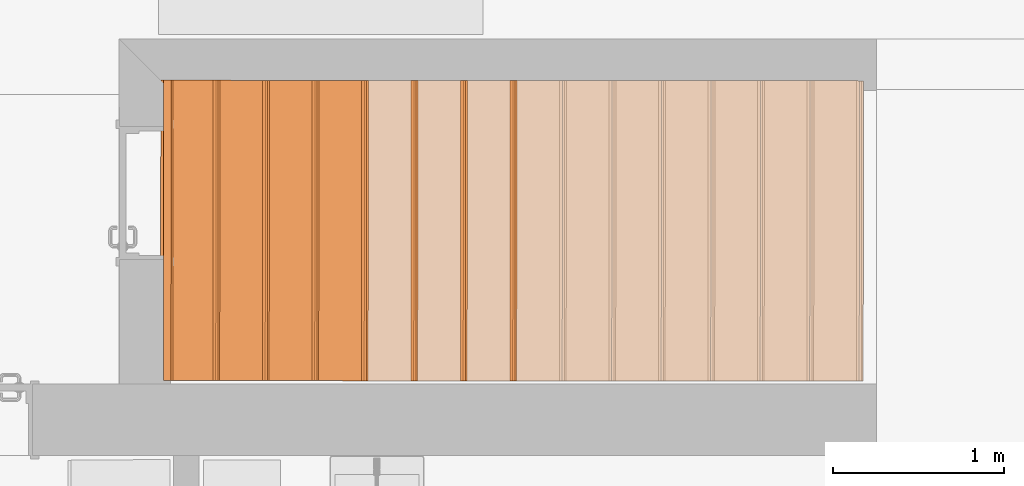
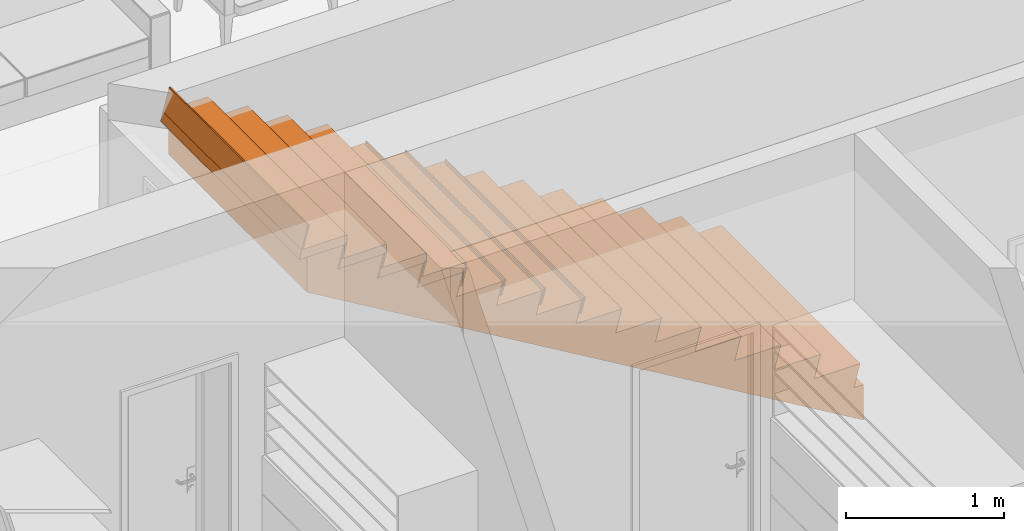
# One storey, part 192 of 194: 13 proxies, 1 element without a shape of its own.
"""IFC2X3 building model written with IfcOpenShell, lengths in millimetres."""

from ifc_helpers import new_model, entity, si_unit, converted_unit, derived_unit, money_unit, direction, frame, origin_with_axes, place, context, subcontext, project, spatial, faceted_brep, material, type_object, element, aggregate, save


model = new_model("IFC2X3")

# Units and contexts
model_context = context("Model", 3, precision=1e-05, world=origin_with_axes(), true_north=direction((0.0, 1.0)))
body_context = subcontext(model_context, "Body", "Model", "MODEL_VIEW")
ifc_project = project(units=[si_unit("LENGTHUNIT", "METRE", prefix="MILLI"), si_unit("AREAUNIT", "SQUARE_METRE"), si_unit("VOLUMEUNIT", "CUBIC_METRE"), converted_unit("PLANEANGLEUNIT", "DEGREE", entity("IfcPlaneAngleMeasure", 0.0174532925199), si_unit("PLANEANGLEUNIT", "RADIAN"), dimensions=[0, 0, 0, 0, 0, 0, 0]), si_unit("SOLIDANGLEUNIT", "STERADIAN"), money_unit("EUR"), converted_unit("TIMEUNIT", "Year", entity("IfcTimeMeasure", 31556926.0), si_unit("TIMEUNIT", "SECOND"), dimensions=[0, 0, 1, 0, 0, 0, 0]), si_unit("MASSUNIT", "GRAM", prefix="KILO"), si_unit("THERMODYNAMICTEMPERATUREUNIT", "DEGREE_CELSIUS"), si_unit("LUMINOUSINTENSITYUNIT", "LUMEN"), si_unit("ENERGYUNIT", "JOULE", prefix="MEGA"), derived_unit("THERMALCONDUCTANCEUNIT", [(si_unit("POWERUNIT", "WATT"), 1), (si_unit("LENGTHUNIT", "METRE"), -1), (si_unit("THERMODYNAMICTEMPERATUREUNIT", "KELVIN"), -1)]), derived_unit("SPECIFICHEATCAPACITYUNIT", [(si_unit("ENERGYUNIT", "JOULE"), 1), (si_unit("MASSUNIT", "GRAM", prefix="KILO"), -1), (si_unit("THERMODYNAMICTEMPERATUREUNIT", "KELVIN"), -1)]), derived_unit("MASSDENSITYUNIT", [(si_unit("MASSUNIT", "GRAM", prefix="KILO"), 1), (si_unit("VOLUMEUNIT", "CUBIC_METRE"), -1)])], contexts=[model_context])

# Site, building, storey
site_placement = place(None, origin_with_axes())
site = spatial("IfcSite", under=ifc_project, at=site_placement, Name="Site", CompositionType="ELEMENT")
building_placement = place(site_placement, origin_with_axes())
building = spatial("IfcBuilding", under=site, at=building_placement, Name="Building", CompositionType="ELEMENT")
storey_placement = place(building_placement, frame((0.0, 0.0, 3000.0), z_axis=(0.0, 0.0, 1.0), x_axis=(1.0, 0.0, 0.0)))
storey = spatial("IfcBuildingStorey", under=building, at=storey_placement, Name="2 KORRUS", CompositionType="ELEMENT", Elevation=3000.0)

# Stair, proxies
stair_placement = place(storey_placement, frame((86050.0204876, 42780.0240656, 0.0), z_axis=(0.0, 0.0, 1.0), x_axis=(-1.0, 0.0, 0.0)))
stair = element("IfcStair", 1, at=stair_placement, inside=storey, Name="STAIR - 001", ShapeType="NOTDEFINED")
ifc_material = material(Name="Betoon - Ol.Olev konstruktsioon")
building_element_proxy_type_1 = type_object("IfcBuildingElementProxyType", Name="BETOON TREPP", PredefinedType="NOTDEFINED")
proxy_1_placement = place(stair_placement, origin_with_axes())
proxy_1 = element("IfcBuildingElementProxy", 2, at=proxy_1_placement, type_object=building_element_proxy_type_1, material=ifc_material, Name="Betoon - Ol.Olev konstruktsioon;  Objekti nimi:", context=body_context, shape_type="Brep", body=[
    faceted_brep([(3964.73530173, 1756.83951981, 2004.34764346), (3916.40198375, 1756.87805543, 1975.71431013), (3868.06866578, 1756.91659105, 1947.08097679), (3819.73534781, 1756.95512667, 1918.44764346), (3771.40202984, 1756.99366229, 1889.81431013), (3723.06871187, 1757.03219791, 1861.18097679), (3674.7353939, 1757.07073353, 1832.54764346), (3626.40207593, 1757.10926915, 1803.91431013), (3578.06875795, 1757.14780477, 1775.28097679), (3529.73543998, 1757.18634038, 1746.64764346), (3481.40212201, 1757.224876, 1718.01431013), (3433.06880404, 1757.26341162, 1689.38097679), (3384.73548607, 1757.30194724, 1660.74764346), (3336.4021681, 1757.34048286, 1632.11431013), (3288.06885013, 1757.37901848, 1603.48097679), (3239.73553216, 1757.4175541, 1574.84764346), (3191.40221418, 1757.45608972, 1546.21431013), (3143.06889621, 1757.49462534, 1517.58097679), (3094.73557824, 1757.53316096, 1488.94764346), (3046.40226027, 1757.57169658, 1460.31431013), (2998.0689423, 1757.6102322, 1431.68097679), (2949.73562433, 1757.64876782, 1403.04764346), (2901.40230636, 1757.68730344, 1374.41431013), (2853.06898838, 1757.72583906, 1345.78097679), (2804.73567041, 1757.76437468, 1317.14764346), (2756.40235244, 1757.8029103, 1288.51431013), (2708.06903447, 1757.84144592, 1259.88097679), (2659.7357165, 1757.87998154, 1231.24764346), (2611.40239853, 1757.91851716, 1202.61431013), (2563.06908056, 1757.95705278, 1173.98097679), (2514.73576259, 1757.99558839, 1145.34764346), (2466.40244461, 1758.03412401, 1116.71431013), (2418.06912664, 1758.07265963, 1088.08097679), (2369.73580867, 1758.11119525, 1059.44764346), (2321.4024907, 1758.14973087, 1030.81431013), (2273.06917273, 1758.18826649, 1002.18097679), (2224.73585476, 1758.22680211, 973.547643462), (2176.40253679, 1758.26533773, 944.914310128), (2128.06921882, 1758.30387335, 916.280976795), (2079.73590084, 1758.34240897, 887.647643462), (2031.40258287, 1758.38094459, 859.014310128), (1983.0692649, 1758.41948021, 830.380976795), (1934.73594693, 1758.45801583, 801.747643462), (1886.40262896, 1758.49655145, 773.114310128), (1838.06931099, 1758.53508707, 744.480976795), (1789.73599302, 1758.57362269, 715.847643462), (1741.40267504, 1758.61215831, 687.214310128), (1693.06935707, 1758.65069393, 658.580976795), (1644.7360391, 1758.68922955, 629.947643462), (1596.40272113, 1758.72776517, 601.314310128), (1548.06940316, 1758.76630079, 572.680976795), (1499.73608519, 1758.80483641, 544.047643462), (1451.40276722, 1758.84337202, 515.414310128), (1403.06944925, 1758.88190764, 486.780976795), (1354.73613127, 1758.92044326, 458.147643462), (1306.4028133, 1758.95897888, 429.514310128), (1258.06949533, 1758.9975145, 400.880976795), (1209.73617736, 1759.03605012, 372.247643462), (1161.40285939, 1759.07458574, 343.614310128), (1113.06954142, 1759.11312136, 314.980976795), (1064.73622345, 1759.15165698, 286.347643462), (1016.40290547, 1759.1901926, 257.714310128), (968.069587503, 1759.22872822, 229.080976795), (919.736269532, 1759.26726384, 200.447643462), (871.402951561, 1759.30579946, 171.814310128), (823.069633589, 1759.34433508, 143.180976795), (774.736315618, 1759.3828707, 114.547643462), (726.402997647, 1759.42140632, 85.9143101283), (678.069679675, 1759.45994194, 57.280976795), (629.736361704, 1759.49847756, 28.6476434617), (581.403043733, 1759.53701318, 0.0143101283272), (533.069725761, 1759.5755488, -28.619023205), (484.73640779, 1759.61408442, -57.2523565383), (436.403089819, 1759.65262004, -85.8856898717), (388.069771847, 1759.69115565, -114.519023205), (339.736453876, 1759.72969127, -143.152356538), (291.403135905, 1759.76822689, -171.785689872), (243.069817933, 1759.80676251, -200.419023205), (194.736499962, 1759.84529813, -229.052356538), (146.403181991, 1759.88383375, -257.685689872), (98.0698640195, 1759.92236937, -286.319023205), (49.7365460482, 1759.96090499, -314.952356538), (1.40322807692, 1759.99944061, -343.585689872), (1.40322807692, 1759.99944061, -70.0), (70.8218928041, 1759.94409237, -70.0), (24.7882361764, 1759.98079549, 101.8), (360.821800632, 1759.71287865, 101.8), (314.788144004, 1759.74958178, 273.6), (650.82170846, 1759.48166493, 273.6), (604.788051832, 1759.51836806, 445.4), (940.821616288, 1759.25045121, 445.4), (894.78795966, 1759.28715434, 617.2), (1230.82152412, 1759.0192375, 617.2), (1184.78786749, 1759.05594062, 789.0), (1520.82143194, 1758.78802378, 789.0), (1474.78777532, 1758.82472691, 960.8), (1810.82133977, 1758.55681006, 960.8), (1764.78768314, 1758.59351319, 1132.6), (2100.8212476, 1758.32559635, 1132.6), (2054.78759097, 1758.36229947, 1304.4), (2390.82115543, 1758.09438263, 1304.4), (2344.7874988, 1758.13108576, 1476.2), (2680.82106326, 1757.86316891, 1476.2), (2634.78740663, 1757.89987204, 1648.0), (2970.82097108, 1757.63195519, 1648.0), (2924.78731446, 1757.66865832, 1819.8), (3260.82087891, 1757.40074148, 1819.8), (3214.78722228, 1757.4374446, 1991.6), (3550.82078674, 1757.16952776, 1991.6), (3504.78713011, 1757.20623089, 2163.4), (3840.82069457, 1756.93831555, 2163.4), (3794.78703794, 1756.97501768, 2335.2), (4061.40193767, 1756.76244857, 2335.2), (4061.40193767, 1756.76244857, 2061.61431013), (4013.0686197, 1756.80098419, 2032.98097679), (3964.03368769, 876.839799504, 2004.34764346), (3867.36705174, 876.916870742, 1947.08097679), (3770.7004158, 876.993941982, 1889.81431013), (3674.03377986, 877.071013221, 1832.54764346), (3577.36714392, 877.14808446, 1775.28097679), (3480.70050797, 877.225155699, 1718.01431013), (3384.03387203, 877.302222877, 1660.74764346), (3287.36723609, 877.379294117, 1603.48097679), (3190.70060015, 877.456368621, 1546.21431013), (3094.0339642, 877.53343986, 1488.94764346), (2997.36732826, 877.610511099, 1431.68097679), (2900.70069232, 877.687583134, 1374.41431013), (2804.03405638, 877.764654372, 1317.14764346), (2707.36742043, 877.841725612, 1259.88097679), (2610.70078449, 877.91879685, 1202.61431013), (2514.03414855, 877.99586809, 1145.34764346), (2417.3675126, 878.072939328, 1088.08097679), (2320.70087666, 878.150010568, 1030.81431013), (2224.03424072, 878.22708021, 973.547643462), (2127.36760478, 878.30415145, 916.280976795), (2030.70096883, 878.381224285, 859.014310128), (1934.03433289, 878.458295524, 801.747643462), (1837.36769695, 878.535366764, 744.480976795), (1740.70106101, 878.612438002, 687.214310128), (1644.03442506, 878.689509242, 629.947643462), (1547.36778912, 878.76658048, 572.680976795), (1450.70115318, 878.84365172, 515.414310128), (1354.03451723, 878.920720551, 458.147643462), (1257.36788129, 878.99779179, 400.880976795), (1160.70124535, 879.074865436, 343.614310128), (1064.03460941, 879.151936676, 286.347643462), (967.367973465, 879.229007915, 229.080976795), (870.701337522, 879.306079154, 171.814310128), (774.03470158, 879.383150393, 114.547643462), (677.368065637, 879.460221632, 57.280976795), (580.701429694, 879.537292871, 0.0143101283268), (484.034793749, 879.614360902, -57.2523565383), (387.368157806, 879.69143214, -114.519023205), (290.701521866, 879.768506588, -171.785689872), (194.034885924, 879.845577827, -229.052356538), (97.3682499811, 879.922649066, -286.319023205), (48.3333179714, -0.0385356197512, -314.952356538), (0.0, 0.0, -343.585689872), (0.0, 0.0, -70.0), (69.4186647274, -0.0553480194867, -70.0), (23.3850080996, -0.018645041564, 101.8), (359.418572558, -0.286558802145, 101.8), (313.384915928, -0.249857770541, 273.6), (649.418480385, -0.517773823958, 273.6), (603.384823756, -0.481071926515, 445.4), (939.418388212, -0.748988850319, 445.4), (893.384731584, -0.712286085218, 617.2), (1229.41829604, -0.980199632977, 617.2), (1183.38463941, -0.943498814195, 789.0), (1519.41820387, -1.21141465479, 789.0), (1473.38454724, -1.17471297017, 960.8), (1809.4181117, -1.4426296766, 960.8), (1763.38445507, -1.40592712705, 1132.6), (2099.41801953, -1.67384046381, 1132.6), (2053.3843629, -1.63713985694, 1304.4), (2389.41792735, -1.90505548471, 1304.4), (2343.38427072, -1.86835401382, 1476.2), (2679.41783518, -2.13627050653, 1476.2), (2633.38417855, -2.09956817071, 1648.0), (2969.41774301, -2.36748553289, 1648.0), (2923.38408638, -2.3307823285, 1819.8), (3259.41765084, -2.59869631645, 1819.8), (3213.38399421, -2.56199505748, 1991.6), (3549.41755866, -2.82991133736, 1991.6), (3503.38390204, -2.79320921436, 2163.4), (3839.41746649, -3.06112505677, 2163.4), (3793.38380986, -3.02442293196, 2335.2), (4059.99870959, -3.23699204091, 2335.2), (4059.99870959, -3.23699204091, 2061.61431013), (4011.66539162, -3.19845642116, 2032.98097679), (3914.99875568, -3.12138518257, 1975.71431013), (3818.33211973, -3.04431394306, 1918.44764346), (3721.66548379, -2.96724270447, 1861.18097679), (3624.99884785, -2.89017146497, 1803.91431013), (3528.33221191, -2.81310022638, 1746.64764346), (3431.66557596, -2.73603710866, 1689.38097679), (3334.99894001, -2.65896586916, 1632.11431013), (3238.33230407, -2.58189463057, 1574.84764346), (3141.66566813, -2.50481685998, 1517.58097679), (3044.99903219, -2.42774562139, 1460.31431013), (2948.33239625, -2.35067438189, 1403.04764346), (2851.66576031, -2.27360155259, 1345.78097679), (2754.99912437, -2.19653031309, 1288.51431013), (2658.33248842, -2.11945907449, 1231.24764346), (2561.66585248, -2.04238783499, 1173.98097679), (2464.99921654, -1.9653165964, 1116.71431013), (2368.33258059, -1.88824535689, 1059.44764346), (2271.66594465, -1.81117731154, 1002.18097679), (2174.99930871, -1.73410607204, 944.914310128), (2078.33267276, -1.65703483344, 887.647643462), (1981.66603682, -1.5799604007, 830.380976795), (1884.99940088, -1.50288916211, 773.114310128), (1788.33276494, -1.42581792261, 715.847643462), (1691.666129, -1.34874668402, 658.580976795), (1594.99949305, -1.27167544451, 601.314310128), (1498.33285711, -1.19460420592, 544.047643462), (1401.66622116, -1.11753778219, 486.780976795), (1304.99958522, -1.0404665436, 429.514310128), (1208.33294928, -0.963395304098, 372.247643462), (1111.66631334, -0.88631924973, 314.980976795), (1014.9996774, -0.809248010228, 257.714310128), (918.333041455, -0.732176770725, 200.447643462), (821.666405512, -0.655105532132, 143.180976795), (724.99976957, -0.57803429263, 85.9143101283), (628.333133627, -0.500963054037, 28.6476434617), (531.666497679, -0.423898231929, -28.619023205), (434.999861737, -0.346826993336, -85.8856898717), (338.333225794, -0.269755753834, -143.152356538), (241.666589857, -0.192678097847, -200.419023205), (144.999953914, -0.115606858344, -257.685689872), (96.6666359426, -0.0770712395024, -286.319023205), (193.333271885, -0.154142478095, -229.052356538), (289.999907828, -0.231213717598, -171.785689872), (386.666543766, -0.308291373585, -114.519023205), (483.333179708, -0.385362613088, -57.2523565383), (579.999815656, -0.462427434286, 0.0143101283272), (676.666451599, -0.539498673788, 57.280976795), (773.333087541, -0.616569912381, 114.547643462), (869.999723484, -0.693641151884, 171.814310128), (966.666359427, -0.770712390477, 229.080976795), (1063.33299537, -0.847783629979, 286.347643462), (1159.99963131, -0.924854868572, 343.614310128), (1256.66626725, -1.00193092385, 400.880976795), (1353.33290319, -1.07900216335, 458.147643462), (1449.99953914, -1.15606858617, 515.414310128), (1546.66617508, -1.23313982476, 572.680976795), (1643.33281103, -1.31021106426, 629.947643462), (1739.99944697, -1.38728230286, 687.214310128), (1836.66608291, -1.46435354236, 744.480976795), (1933.33271885, -1.54142478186, 801.747643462), (2029.9993548, -1.61849602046, 859.014310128), (2126.66599074, -1.69557045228, 916.280976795), (2223.33262668, -1.77264169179, 973.547643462), (2319.99926262, -1.84970973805, 1030.81431013), (2416.66589857, -1.92678097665, 1088.08097679), (2513.33253451, -2.00385221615, 1145.34764346), (2609.99917045, -2.08092345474, 1202.61431013), (2706.66580639, -2.15799469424, 1259.88097679), (2803.33244234, -2.23506593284, 1317.14764346), (2899.99907828, -2.31213717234, 1374.41431013), (2996.66571422, -2.38921000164, 1431.68097679), (3093.33235016, -2.46628124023, 1488.94764346), (3189.99898611, -2.54335247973, 1546.21431013), (3286.66562204, -2.62043024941, 1603.48097679), (3383.33225799, -2.69750148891, 1660.74764346), (3479.99889394, -2.77456460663, 1718.01431013), (3576.66552988, -2.85163584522, 1775.28097679), (3673.33216582, -2.92870708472, 1832.54764346), (3769.99880176, -3.00577832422, 1889.81431013), (3866.66543771, -3.08284956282, 1947.08097679), (3963.33207365, -3.15992080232, 2004.34764346)], [[[0, 1, 2, 3, 4, 5, 6, 7, 8, 9, 10, 11, 12, 13, 14, 15, 16, 17, 18, 19, 20, 21, 22, 23, 24, 25, 26, 27, 28, 29, 30, 31, 32, 33, 34, 35, 36, 37, 38, 39, 40, 41, 42, 43, 44, 45, 46, 47, 48, 49, 50, 51, 52, 53, 54, 55, 56, 57, 58, 59, 60, 61, 62, 63, 64, 65, 66, 67, 68, 69, 70, 71, 72, 73, 74, 75, 76, 77, 78, 79, 80, 81, 82, 83, 84, 85, 86, 87, 88, 89, 90, 91, 92, 93, 94, 95, 96, 97, 98, 99, 100, 101, 102, 103, 104, 105, 106, 107, 108, 109, 110, 111, 112, 113, 114]], [[115, 1, 0]], [[116, 2, 1]], [[116, 3, 2]], [[117, 4, 3]], [[117, 5, 4]], [[118, 6, 5]], [[118, 7, 6]], [[119, 8, 7]], [[119, 9, 8]], [[120, 10, 9]], [[120, 11, 10]], [[121, 12, 11]], [[121, 13, 12]], [[122, 14, 13]], [[122, 15, 14]], [[123, 16, 15]], [[123, 17, 16]], [[124, 18, 17]], [[124, 19, 18]], [[125, 20, 19]], [[125, 21, 20]], [[126, 22, 21]], [[126, 23, 22]], [[127, 24, 23]], [[127, 25, 24]], [[128, 26, 25]], [[128, 27, 26]], [[129, 28, 27]], [[129, 29, 28]], [[130, 30, 29]], [[130, 31, 30]], [[131, 32, 31]], [[131, 33, 32]], [[132, 34, 33]], [[132, 35, 34]], [[133, 36, 35]], [[133, 37, 36]], [[134, 38, 37]], [[134, 39, 38]], [[135, 40, 39]], [[135, 41, 40]], [[136, 42, 41]], [[136, 43, 42]], [[137, 44, 43]], [[137, 45, 44]], [[138, 46, 45]], [[138, 47, 46]], [[139, 48, 47]], [[139, 49, 48]], [[140, 50, 49]], [[140, 51, 50]], [[141, 52, 51]], [[141, 53, 52]], [[142, 54, 53]], [[142, 55, 54]], [[143, 56, 55]], [[143, 57, 56]], [[144, 58, 57]], [[144, 59, 58]], [[145, 60, 59]], [[145, 61, 60]], [[146, 62, 61]], [[146, 63, 62]], [[147, 64, 63]], [[147, 65, 64]], [[148, 66, 65]], [[148, 67, 66]], [[149, 68, 67]], [[149, 69, 68]], [[150, 70, 69]], [[150, 71, 70]], [[151, 72, 71]], [[151, 73, 72]], [[152, 74, 73]], [[152, 75, 74]], [[153, 76, 75]], [[153, 77, 76]], [[154, 78, 77]], [[154, 79, 78]], [[155, 80, 79]], [[155, 81, 80]], [[155, 156, 157, 82, 81]], [[158, 83, 82, 157]], [[159, 84, 83, 158]], [[160, 85, 84, 159]], [[160, 161, 86, 85]], [[162, 87, 86, 161]], [[162, 163, 88, 87]], [[164, 89, 88, 163]], [[164, 165, 90, 89]], [[166, 91, 90, 165]], [[166, 167, 92, 91]], [[168, 93, 92, 167]], [[168, 169, 94, 93]], [[170, 95, 94, 169]], [[170, 171, 96, 95]], [[172, 97, 96, 171]], [[172, 173, 98, 97]], [[174, 99, 98, 173]], [[174, 175, 100, 99]], [[176, 101, 100, 175]], [[176, 177, 102, 101]], [[178, 103, 102, 177]], [[178, 179, 104, 103]], [[180, 105, 104, 179]], [[180, 181, 106, 105]], [[182, 107, 106, 181]], [[182, 183, 108, 107]], [[184, 109, 108, 183]], [[184, 185, 110, 109]], [[186, 111, 110, 185]], [[112, 111, 186, 187]], [[112, 187, 188, 113]], [[188, 189, 115, 114, 113]], [[115, 0, 114]], [[116, 1, 115, 190]], [[191, 117, 3, 116]], [[118, 5, 117, 192]], [[193, 119, 7, 118]], [[194, 120, 9, 119]], [[195, 121, 11, 120]], [[122, 13, 121, 196]], [[197, 123, 15, 122]], [[198, 124, 17, 123]], [[199, 125, 19, 124]], [[126, 21, 125, 200]], [[127, 23, 126, 201]], [[202, 128, 25, 127]], [[129, 27, 128, 203]], [[204, 130, 29, 129]], [[131, 31, 130, 205]], [[206, 132, 33, 131]], [[207, 133, 35, 132]], [[134, 37, 133, 208]], [[135, 39, 134, 209]], [[210, 136, 41, 135]], [[211, 137, 43, 136]], [[138, 45, 137, 212]], [[139, 47, 138, 213]], [[214, 140, 49, 139]], [[141, 51, 140, 215]], [[216, 142, 53, 141]], [[217, 143, 55, 142]], [[144, 57, 143, 218]], [[219, 145, 59, 144]], [[146, 61, 145, 220]], [[221, 147, 63, 146]], [[222, 148, 65, 147]], [[149, 67, 148, 223]], [[150, 69, 149, 224]], [[151, 71, 150, 225]], [[226, 152, 73, 151]], [[153, 75, 152, 227]], [[228, 154, 77, 153]], [[229, 155, 79, 154]], [[155, 230, 156]], [[230, 229, 231, 228, 232, 227, 233, 226, 234, 225, 235, 224, 236, 223, 237, 222, 238, 221, 239, 220, 240, 219, 241, 218, 242, 217, 243, 216, 244, 215, 245, 214, 246, 213, 247, 212, 248, 211, 249, 210, 250, 209, 251, 208, 252, 207, 253, 206, 254, 205, 255, 204, 256, 203, 257, 202, 258, 201, 259, 200, 260, 199, 261, 198, 262, 197, 263, 196, 264, 195, 265, 194, 266, 193, 267, 192, 268, 191, 269, 190, 270, 189, 188, 187, 186, 185, 184, 183, 182, 181, 180, 179, 178, 177, 176, 175, 174, 173, 172, 171, 170, 169, 168, 167, 166, 165, 164, 163, 162, 161, 160, 159, 158, 157, 156]], [[115, 189, 270]], [[115, 270, 190]], [[116, 190, 269]], [[117, 191, 268]], [[116, 269, 191]], [[117, 268, 192]], [[118, 192, 267]], [[119, 193, 266]], [[118, 267, 193]], [[120, 194, 265]], [[119, 266, 194]], [[121, 195, 264]], [[120, 265, 195]], [[121, 264, 196]], [[122, 196, 263]], [[123, 197, 262]], [[122, 263, 197]], [[124, 198, 261]], [[123, 262, 198]], [[125, 199, 260]], [[124, 261, 199]], [[125, 260, 200]], [[126, 200, 259]], [[126, 259, 201]], [[127, 201, 258]], [[128, 202, 257]], [[127, 258, 202]], [[128, 257, 203]], [[129, 203, 256]], [[130, 204, 255]], [[129, 256, 204]], [[130, 255, 205]], [[131, 205, 254]], [[132, 206, 253]], [[131, 254, 206]], [[133, 207, 252]], [[132, 253, 207]], [[133, 252, 208]], [[134, 208, 251]], [[134, 251, 209]], [[135, 209, 250]], [[136, 210, 249]], [[135, 250, 210]], [[137, 211, 248]], [[136, 249, 211]], [[137, 248, 212]], [[138, 212, 247]], [[138, 247, 213]], [[139, 213, 246]], [[140, 214, 245]], [[139, 246, 214]], [[140, 245, 215]], [[141, 215, 244]], [[142, 216, 243]], [[141, 244, 216]], [[143, 217, 242]], [[142, 243, 217]], [[143, 242, 218]], [[144, 218, 241]], [[145, 219, 240]], [[144, 241, 219]], [[145, 240, 220]], [[146, 220, 239]], [[147, 221, 238]], [[146, 239, 221]], [[148, 222, 237]], [[147, 238, 222]], [[148, 237, 223]], [[149, 223, 236]], [[149, 236, 224]], [[150, 224, 235]], [[150, 235, 225]], [[151, 225, 234]], [[152, 226, 233]], [[151, 234, 226]], [[152, 233, 227]], [[153, 227, 232]], [[154, 228, 231]], [[153, 232, 228]], [[155, 229, 230]], [[154, 231, 229]]]),
])
building_element_proxy_type_2 = type_object("IfcBuildingElementProxyType", Name="SF RISER - 020", PredefinedType="NOTDEFINED")
proxy_2_placement = place(stair_placement, frame((2030.70096883, 878.381224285, 1314.4), z_axis=(0.0, 0.0, 1.0), x_axis=(0.000797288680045, 0.999999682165, 0.0)))
proxy_2 = element("IfcBuildingElementProxy", 3, at=proxy_2_placement, type_object=building_element_proxy_type_2, material=ifc_material, Name=";  Objekti nimi: Riser 22", context=body_context, shape_type="Brep", body=[
    faceted_brep([(880.000000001, 0.0, 0.0), (-879.999999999, 0.0, 0.0), (-879.999999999, -10.3527618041, 0.0), (880.000000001, -10.3527618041, 0.0), (880.0, -29.9567197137, -111.8), (-879.999999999, -29.9567197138, -111.8), (-879.999999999, -40.3094815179, -111.8), (880.0, -40.309481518, -111.8)], [[[0, 1, 2, 3]], [[4, 5, 1, 0]], [[1, 5, 6, 2]], [[3, 2, 6, 7]], [[0, 3, 7, 4]], [[7, 6, 5, 4]]]),
])
proxy_3_placement = place(stair_placement, frame((2320.70087666, 878.150010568, 1486.2), z_axis=(0.0, 0.0, 1.0), x_axis=(0.000797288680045, 0.999999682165, 0.0)))
proxy_3 = element("IfcBuildingElementProxy", 4, at=proxy_3_placement, type_object=building_element_proxy_type_2, material=ifc_material, Name=";  Objekti nimi: Riser 22", context=body_context, shape_type="Brep", body=[
    faceted_brep([(880.000000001, 0.0, 0.0), (-880.0, 1.13686837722e-10, 0.0), (-880.0, -10.3527618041, 0.0), (880.000000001, -10.352761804, 0.0), (880.0, -29.9567197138, -111.8), (-879.999999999, -29.9567197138, -111.8), (-879.999999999, -40.3094815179, -111.8), (880.0, -40.309481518, -111.8)], [[[0, 1, 2, 3]], [[4, 5, 1, 0]], [[1, 5, 6, 2]], [[3, 2, 6, 7]], [[0, 3, 7, 4]], [[7, 6, 5, 4]]]),
])
proxy_4_placement = place(stair_placement, frame((2610.70078449, 877.91879685, 1658.0), z_axis=(0.0, 0.0, 1.0), x_axis=(0.000797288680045, 0.999999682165, 0.0)))
proxy_4 = element("IfcBuildingElementProxy", 5, at=proxy_4_placement, type_object=building_element_proxy_type_2, material=ifc_material, Name=";  Objekti nimi: Riser 22", context=body_context, shape_type="Brep", body=[
    faceted_brep([(880.000000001, -1.13686837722e-10, 0.0), (-880.000000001, 0.0, 0.0), (-880.0, -10.3527618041, 0.0), (879.999999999, -10.352761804, 0.0), (880.0, -29.9567197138, -111.8), (-880.0, -29.9567197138, -111.8), (-880.000000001, -40.3094815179, -111.8), (880.0, -40.3094815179, -111.8)], [[[0, 1, 2, 3]], [[4, 5, 1, 0]], [[1, 5, 6, 2]], [[3, 2, 6, 7]], [[0, 3, 7, 4]], [[7, 6, 5, 4]]]),
])
proxy_5_placement = place(stair_placement, frame((2900.70069232, 877.687583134, 1829.8), z_axis=(0.0, 0.0, 1.0), x_axis=(0.000797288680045, 0.999999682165, 0.0)))
proxy_5 = element("IfcBuildingElementProxy", 6, at=proxy_5_placement, type_object=building_element_proxy_type_2, material=ifc_material, Name=";  Objekti nimi: Riser 22", context=body_context, shape_type="Brep", body=[
    faceted_brep([(879.999999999, -1.13686837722e-10, 0.0), (-880.000000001, -1.13686837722e-10, 0.0), (-880.0, -10.3527618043, 0.0), (879.999999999, -10.3527618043, 0.0), (880.0, -29.9567197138, -111.8), (-880.000000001, -29.9567197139, -111.8), (-880.000000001, -40.309481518, -111.8), (879.999999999, -40.3094815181, -111.8)], [[[0, 1, 2, 3]], [[4, 5, 1, 0]], [[1, 5, 6, 2]], [[3, 2, 6, 7]], [[0, 3, 7, 4]], [[7, 6, 5, 4]]]),
])
proxy_6_placement = place(stair_placement, frame((3190.70060015, 877.456369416, 2001.6), z_axis=(0.0, 0.0, 1.0), x_axis=(0.000797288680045, 0.999999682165, 0.0)))
proxy_6 = element("IfcBuildingElementProxy", 7, at=proxy_6_placement, type_object=building_element_proxy_type_2, material=ifc_material, Name=";  Objekti nimi: Riser 22", context=body_context, shape_type="Brep", body=[
    faceted_brep([(880.0, 0.0, 0.0), (-880.0, 1.13686837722e-10, 0.0), (-879.999999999, -10.3527618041, 0.0), (880.0, -10.352761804, 0.0), (880.0, -29.9567197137, -111.8), (-880.0, -29.9567197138, -111.8), (-880.0, -40.3094815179, -111.8), (879.999999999, -40.309481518, -111.8)], [[[0, 1, 2, 3]], [[4, 5, 1, 0]], [[1, 5, 6, 2]], [[3, 2, 6, 7]], [[0, 3, 7, 4]], [[7, 6, 5, 4]]]),
])
proxy_7_placement = place(stair_placement, frame((3480.70050797, 877.225155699, 2173.4), z_axis=(0.0, 0.0, 1.0), x_axis=(0.000797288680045, 0.999999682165, 0.0)))
proxy_7 = element("IfcBuildingElementProxy", 8, at=proxy_7_placement, type_object=building_element_proxy_type_2, material=ifc_material, Name=";  Objekti nimi: Riser 22", context=body_context, shape_type="Brep", body=[
    faceted_brep([(880.000000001, -1.13686837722e-10, 0.0), (-879.999999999, 0.0, 0.0), (-880.0, -10.3527618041, 0.0), (880.000000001, -10.352761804, 0.0), (880.0, -29.9567197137, -111.8), (-879.999999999, -29.9567197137, -111.8), (-879.999999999, -40.3094815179, -111.8), (880.0, -40.3094815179, -111.8)], [[[0, 1, 2, 3]], [[4, 5, 1, 0]], [[1, 5, 6, 2]], [[3, 2, 6, 7]], [[0, 3, 7, 4]], [[7, 6, 5, 4]]]),
])
proxy_8_placement = place(stair_placement, frame((3770.7004158, 876.993941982, 2345.2), z_axis=(0.0, 0.0, 1.0), x_axis=(0.000797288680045, 0.999999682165, 0.0)))
proxy_8 = element("IfcBuildingElementProxy", 9, at=proxy_8_placement, type_object=building_element_proxy_type_2, material=ifc_material, Name=";  Objekti nimi: Riser 22", context=body_context, shape_type="Brep", body=[
    faceted_brep([(880.000000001, 0.0, 0.0), (-880.000000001, 0.0, 0.0), (-880.0, -10.3527618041, 0.0), (880.000000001, -10.3527618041, 0.0), (880.0, -29.9567197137, -111.8), (-879.999999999, -29.9567197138, -111.8), (-880.0, -40.3094815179, -111.8), (880.0, -40.309481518, -111.8)], [[[0, 1, 2, 3]], [[4, 5, 1, 0]], [[1, 5, 6, 2]], [[3, 2, 6, 7]], [[0, 3, 7, 4]], [[7, 6, 5, 4]]]),
])
proxy_9_placement = place(stair_placement, frame((4060.70032363, 876.762728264, 2577.0), z_axis=(0.0, 0.0, 1.0), x_axis=(0.000797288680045, 0.999999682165, 0.0)))
proxy_9 = element("IfcBuildingElementProxy", 10, at=proxy_9_placement, type_object=building_element_proxy_type_2, material=ifc_material, Name=";  Objekti nimi: Riser 22", context=body_context, shape_type="Brep", body=[
    faceted_brep([(879.999999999, 16.076951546, 0.0), (-880.0, 16.0769515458, 0.0), (-880.0, 5.72418974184, 0.0), (880.0, 5.72418974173, 0.0), (880.0, -29.9567197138, -171.8), (-880.000000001, -29.9567197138, -171.8), (-880.000000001, -40.3094815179, -171.8), (879.999999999, -40.309481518, -171.8)], [[[0, 1, 2, 3]], [[4, 5, 1, 0]], [[1, 5, 6, 2]], [[3, 2, 6, 7]], [[0, 3, 7, 4]], [[7, 6, 5, 4]]]),
])
building_element_proxy_type_3 = type_object("IfcBuildingElementProxyType", Name="SF TREAD - 020", PredefinedType="NOTDEFINED")
proxy_10_placement = place(stair_placement, frame((2900.70069232, 877.687583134, 1889.8), z_axis=(0.0, 0.0, 1.0), x_axis=(0.000797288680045, 0.999999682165, 0.0)))
proxy_10 = element("IfcBuildingElementProxy", 11, at=proxy_10_placement, type_object=building_element_proxy_type_3, material=ifc_material, Name=";  Objekti nimi: Tread 22", context=body_context, shape_type="Brep", body=[
    faceted_brep([(-880.000000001, -346.386420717, -70.0), (-880.000000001, -1.13686837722e-10, -70.0), (879.999999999, -1.13686837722e-10, -70.0), (879.999999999, -346.386428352, -70.0), (839.999999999, -40.0000000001, -70.0), (-840.0, -40.0000000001, -70.0), (-840.0, -306.386420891, -70.0), (839.999999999, -306.386428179, -70.0), (-880.000000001, -1.13686837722e-10, 0.0), (-880.000000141, -346.386420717, -60.0), (-880.0, -330.309469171, 0.0), (879.999999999, -1.13686837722e-10, 0.0), (879.999999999, -330.309469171, 0.0), (880.0, -346.386420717, -60.0), (839.999999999, -40.0000000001, -60.0), (-840.0, -40.0000000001, -60.0), (-840.0, -306.386420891, -60.0), (839.999999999, -306.386428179, -60.0)], [[[0, 1, 2, 3], [4, 5, 6, 7]], [[8, 1, 0, 9, 10]], [[11, 2, 1, 8]], [[12, 13, 3, 2, 11]], [[0, 3, 13, 9]], [[4, 14, 15, 5]], [[5, 15, 16, 6]], [[6, 16, 17, 7]], [[7, 17, 14, 4]], [[10, 9, 13, 12]], [[12, 11, 8, 10]], [[15, 14, 17, 16]]]),
])
proxy_11_placement = place(stair_placement, frame((3190.70060015, 877.456369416, 2061.6), z_axis=(0.0, 0.0, 1.0), x_axis=(0.000797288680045, 0.999999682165, 0.0)))
proxy_11 = element("IfcBuildingElementProxy", 12, at=proxy_11_placement, type_object=building_element_proxy_type_3, material=ifc_material, Name=";  Objekti nimi: Tread 22", context=body_context, shape_type="Brep", body=[
    faceted_brep([(-880.000000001, -346.386444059, -70.0), (-880.0, 1.13686837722e-10, -70.0), (880.0, 0.0, -70.0), (880.0, -346.386425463, -70.0), (840.0, -40.0, -70.0), (-840.0, -40.0, -70.0), (-840.0, -306.386443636, -70.0), (840.0, -306.386425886, -70.0), (-880.0, 1.13686837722e-10, 0.0), (-880.000000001, -346.386444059, -60.0), (-880.0, -330.309492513, 0.0), (880.0, 0.0, 0.0), (880.0, -330.309492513, 0.0), (880.00000034, -346.386444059, -60.0), (840.0, -40.0, -60.0), (-840.0, -40.0, -60.0), (-840.0, -306.386443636, -60.0), (840.0, -306.386425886, -60.0)], [[[0, 1, 2, 3], [4, 5, 6, 7]], [[8, 1, 0, 9, 10]], [[11, 2, 1, 8]], [[12, 13, 3, 2, 11]], [[0, 3, 13, 9]], [[4, 14, 15, 5]], [[5, 15, 16, 6]], [[6, 16, 17, 7]], [[7, 17, 14, 4]], [[10, 9, 13, 12]], [[12, 11, 8, 10]], [[15, 14, 17, 16]]]),
])
proxy_12_placement = place(stair_placement, frame((3480.70050797, 877.225155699, 2233.4), z_axis=(0.0, 0.0, 1.0), x_axis=(0.000797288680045, 0.999999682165, 0.0)))
proxy_12 = element("IfcBuildingElementProxy", 13, at=proxy_12_placement, type_object=building_element_proxy_type_3, material=ifc_material, Name=";  Objekti nimi: Tread 22", context=body_context, shape_type="Brep", body=[
    faceted_brep([(-880.0, -346.386445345, -70.0), (-879.999999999, 0.0, -70.0), (880.000000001, -1.13686837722e-10, -70.0), (880.0, -346.38642675, -70.0), (840.000000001, -40.0, -70.0), (-839.999999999, -40.0, -70.0), (-840.0, -306.386444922, -70.0), (840.000000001, -306.386427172, -70.0), (-879.999999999, 0.0, 0.0), (-880.0, -346.386445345, -60.0), (-879.999999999, -330.309493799, 0.0), (880.000000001, -1.13686837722e-10, 0.0), (880.0, -330.309493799, 0.0), (880.00000034, -346.386445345, -60.0), (840.000000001, -40.0, -60.0), (-839.999999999, -40.0, -60.0), (-840.0, -306.386444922, -60.0), (840.000000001, -306.386427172, -60.0)], [[[0, 1, 2, 3], [4, 5, 6, 7]], [[8, 1, 0, 9, 10]], [[11, 2, 1, 8]], [[12, 13, 3, 2, 11]], [[0, 3, 13, 9]], [[4, 14, 15, 5]], [[5, 15, 16, 6]], [[6, 16, 17, 7]], [[7, 17, 14, 4]], [[10, 9, 13, 12]], [[12, 11, 8, 10]], [[15, 14, 17, 16]]]),
])
proxy_13_placement = place(stair_placement, frame((3770.7004158, 876.993941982, 2405.2), z_axis=(0.0, 0.0, 1.0), x_axis=(0.000797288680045, 0.999999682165, 0.0)))
proxy_13 = element("IfcBuildingElementProxy", 14, at=proxy_13_placement, type_object=building_element_proxy_type_3, material=ifc_material, Name=";  Objekti nimi: Tread 22", context=body_context, shape_type="Brep", body=[
    faceted_brep([(880.000000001, 0.0, -70.0), (880.0, -290.0, -70.0), (880.0, -346.386433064, -70.0), (-880.0, -346.386433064, -70.0), (-880.0, -290.0, -70.0), (-880.000000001, 0.0, -70.0), (840.0, -40.0, -70.0), (-840.0, -40.0, -70.0), (-839.999999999, -306.386433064, -70.0), (840.000000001, -306.386433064, -70.0), (880.0, -290.0, 0.0), (880.000000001, 0.0, 0.0), (880.0, -330.309481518, 0.0), (880.0, -346.386433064, -60.0), (-880.0, -346.386433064, -60.0), (-880.0, -290.0, 0.0), (-880.0, -330.309481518, 0.0), (-880.000000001, 0.0, 0.0), (840.0, -40.0, -60.0), (-840.0, -40.0, -60.0), (-839.999999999, -306.386433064, -60.0), (840.000000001, -306.386433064, -60.0)], [[[0, 1, 2, 3, 4, 5], [6, 7, 8, 9]], [[10, 1, 0, 11]], [[12, 13, 2, 1, 10]], [[3, 2, 13, 14]], [[15, 4, 3, 14, 16]], [[17, 5, 4, 15]], [[11, 0, 5, 17]], [[6, 18, 19, 7]], [[7, 19, 20, 8]], [[8, 20, 21, 9]], [[9, 21, 18, 6]], [[12, 10, 11, 17, 15, 16]], [[16, 14, 13, 12]], [[19, 18, 21, 20]]]),
])
aggregate(stair, [proxy_1, proxy_2, proxy_3, proxy_4, proxy_5, proxy_6, proxy_7, proxy_8, proxy_9, proxy_10, proxy_11, proxy_12, proxy_13])

save(model, "model.ifc")
